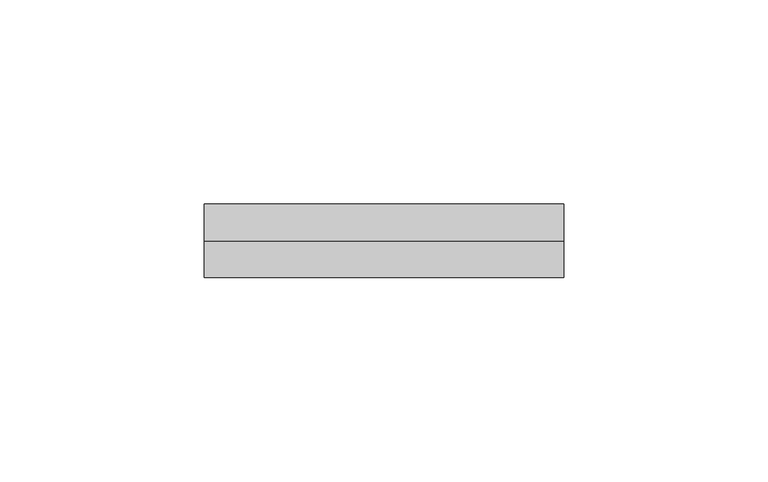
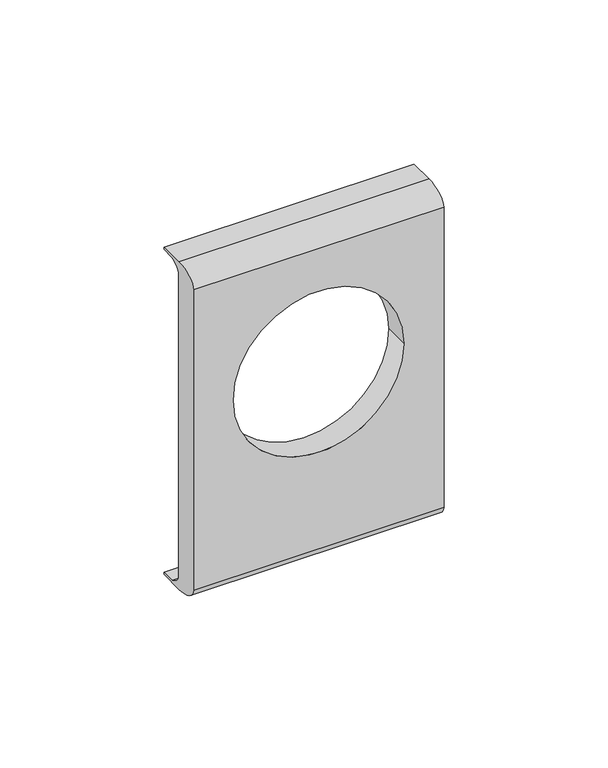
"""IFC4 building model written with IfcOpenShell, lengths in millimetres: proxy geometry, КНС_РамкаСуппортPDA-N_ILC_DKC : Рамка суппорт PDA-N_DKC."""

from ifc_helpers import new_model, si_unit, point, frame, origin, place, context, project, spatial, polyline, circle_curve, ellipse_curve, trimmed, source, transform, mapped, element, save
from ifc_brep_helpers import plane_surface, revolved_surface, extruded_surface, advanced_brep


def electrical_fixtures_d3c7e23e(model_context):
    return source(origin(), model_context, "Body", "AdvancedBrep", [
        advanced_brep(
        [(44.0, 9.0, 50.85), (44.0, 0.0, 50.85), (44.0, -9.0, 45.85), (44.0, -9.0, -65.85), (44.0, 0.0, -70.85), (44.0, 9.0, -70.85), (44.0, 9.0, -70.0), (44.0, 3.9801295, -70.0), (44.0, 0.0, -65.85), (44.0, 0.0, 45.85), (44.0, 3.9801295, 50.0), (44.0, 9.0, 50.0), (-44.0, 9.0, 50.85), (-44.0, 9.0, 50.0), (-44.0, 3.9801295, 50.0), (-44.0, 0.0, 45.85), (-44.0, 0.0, -65.85), (-44.0, 3.9801295, -70.0), (-44.0, 9.0, -70.0), (-44.0, 9.0, -70.85), (-44.0, 0.0, -70.85), (-44.0, -9.0, -65.85), (-44.0, -9.0, 45.85), (-44.0, 0.0, 50.85), (30.0, -9.0, 0.0), (-30.0, -9.0, 0.0), (-30.0, 0.0, 0.0), (30.0, 0.0, 0.0)],
        [
            (0, 1),
            (1, 2, ellipse_curve(frame((44.0, 0.0, 45.85), z_axis=(1.0, 0.0, 0.0), x_axis=(0.0, 1.0, 0.0)), 9.0, 5.0)),
            (2, 3),
            (3, 4, ellipse_curve(frame((44.0, 0.0, -65.85), z_axis=(1.0, 0.0, 0.0), x_axis=(0.0, 1.0, 0.0)), 9.0, 5.0)),
            (4, 5),
            (5, 6),
            (6, 7),
            (7, 8, ellipse_curve(frame((44.0, 9.0, -65.85), z_axis=(-1.0, 0.0, 0.0), x_axis=(0.0, 1.0, 0.0)), 9.0, 5.0)),
            (8, 9),
            (9, 10, ellipse_curve(frame((44.0, 9.0, 45.85), z_axis=(-1.0, 0.0, 0.0), x_axis=(0.0, 1.0, 0.0)), 9.0, 5.0)),
            (10, 11),
            (11, 0),
            (12, 13),
            (13, 14),
            (14, 15, ellipse_curve(frame((-44.0, 9.0, 45.85), z_axis=(1.0, 0.0, 0.0), x_axis=(0.0, 1.0, 0.0)), 9.0, 5.0)),
            (15, 16),
            (16, 17, ellipse_curve(frame((-44.0, 9.0, -65.85), z_axis=(1.0, 0.0, 0.0), x_axis=(0.0, 1.0, 0.0)), 9.0, 5.0)),
            (17, 18),
            (18, 19),
            (19, 20),
            (20, 21, ellipse_curve(frame((-44.0, 0.0, -65.85), z_axis=(-1.0, 0.0, 0.0), x_axis=(0.0, 1.0, 0.0)), 9.0, 5.0)),
            (21, 22),
            (22, 23, ellipse_curve(frame((-44.0, 0.0, 45.85), z_axis=(-1.0, 0.0, 0.0), x_axis=(0.0, 1.0, 0.0)), 9.0, 5.0)),
            (23, 12),
            (0, 12),
            (23, 1),
            (2, 22),
            (21, 3),
            (24, 25, circle_curve(frame((0.0, -9.0, 0.0), z_axis=(0.0, 1.0, 0.0), x_axis=(1.0, 0.0, 0.0)), 30.0)),
            (25, 24, circle_curve(frame((0.0, -9.0, 0.0), z_axis=(0.0, 1.0, 0.0), x_axis=(1.0, 0.0, 0.0)), 30.0)),
            (4, 20),
            (19, 5),
            (18, 6),
            (17, 7),
            (8, 16),
            (15, 9),
            (26, 27, circle_curve(frame((0.0, 0.0, 0.0), z_axis=(0.0, -1.0, 0.0), x_axis=(1.0, 0.0, 0.0)), 30.0)),
            (27, 26, circle_curve(frame((0.0, 0.0, 0.0), z_axis=(0.0, -1.0, 0.0), x_axis=(1.0, 0.0, 0.0)), 30.0)),
            (10, 14),
            (13, 11),
            (24, 27),
            (26, 25),
        ],
        [
            plane_surface(frame((44.0, 9.0, 50.85), z_axis=(1.0, 0.0, 0.0), x_axis=(0.0, -1.0, 0.0))),
            plane_surface(frame((-44.0, 9.0, 50.85), z_axis=(-1.0, 0.0, 0.0), x_axis=(0.0, 1.0, 0.0))),
            plane_surface(frame((44.0, 9.0, 50.85), z_axis=(0.0, 0.0, 1.0), x_axis=(-1.0, 0.0, 0.0))),
            plane_surface(frame((44.0, -9.0, 45.85), z_axis=(0.0, -1.0, 0.0), x_axis=(-1.0, 0.0, 0.0))),
            plane_surface(frame((44.0, 0.0, -70.85), z_axis=(0.0, 0.0, -1.0), x_axis=(-1.0, 0.0, 0.0))),
            plane_surface(frame((44.0, 9.0, -70.85), z_axis=(0.0, 1.0, 0.0), x_axis=(-1.0, 0.0, 0.0))),
            plane_surface(frame((44.0, 9.0, -70.0), z_axis=(0.0, 0.0, 1.0), x_axis=(-1.0, 0.0, 0.0))),
            plane_surface(frame((44.0, 0.0, -65.85), z_axis=(0.0, 1.0, 0.0), x_axis=(-1.0, 0.0, 0.0))),
            plane_surface(frame((44.0, 3.9801295, 50.0), z_axis=(0.0, 0.0, -1.0), x_axis=(-1.0, 0.0, 0.0))),
            plane_surface(frame((44.0, 9.0, 50.0), z_axis=(0.0, 1.0, 0.0), x_axis=(-1.0, 0.0, 0.0))),
            extruded_surface(trimmed(ellipse_curve(frame((-132.0, 0.0, 45.85), z_axis=(1.0, 0.0, 0.0), x_axis=(0.0, 1.0, 0.0)), 9.0, 5.0), [point((-132.0, 0.0, 50.85))], [point((-132.0, -9.0, 45.85))], True, "CARTESIAN"), (88.0, 0.0, 0.0), 88.0),
            extruded_surface(trimmed(ellipse_curve(frame((-132.0, 0.0, -65.85), z_axis=(1.0, 0.0, 0.0), x_axis=(0.0, 1.0, 0.0)), 9.0, 5.0), [point((-132.0, -9.0, -65.85))], [point((-132.0, 0.0, -70.85))], True, "CARTESIAN"), (88.0, 0.0, 0.0), 88.0),
            extruded_surface(trimmed(ellipse_curve(frame((-132.0, 9.0, -65.85), z_axis=(-1.0, 0.0, 0.0), x_axis=(0.0, 1.0, 0.0)), 9.0, 5.0), [point((-132.0, 3.9801295, -70.0))], [point((-132.0, 0.0, -65.85))], True, "CARTESIAN"), (88.0, 0.0, 0.0), 88.0),
            extruded_surface(trimmed(ellipse_curve(frame((-132.0, 9.0, 45.85), z_axis=(-1.0, 0.0, 0.0), x_axis=(0.0, 1.0, 0.0)), 9.0, 5.0), [point((-132.0, 0.0, 45.85))], [point((-132.0, 3.9801295, 50.0))], True, "CARTESIAN"), (88.0, 0.0, 0.0), 88.0),
            revolved_surface(polyline([(30.0, -9.0, 0.0), (30.0, 0.0, 0.0)]), (0.0, 0.0, 0.0), (0.0, -1.0, 0.0)),
        ],
        [
            (0, [[1, 2, 3, 4, 5, 6, 7, 8, 9, 10, 11, 12]]),
            (1, [[13, 14, 15, 16, 17, 18, 19, 20, 21, 22, 23, 24]]),
            (2, [[-1, 25, -24, 26]]),
            (3, [[-3, 27, -22, 28], [29, 30]]),
            (4, [[-5, 31, -20, 32]]),
            (5, [[-6, -32, -19, 33]]),
            (6, [[-7, -33, -18, 34]]),
            (7, [[-9, 35, -16, 36], [37, 38]]),
            (8, [[-11, 39, -14, 40]]),
            (9, [[-12, -40, -13, -25]]),
            (10, [[-2, -26, -23, -27]]),
            (11, [[-4, -28, -21, -31]]),
            (12, [[-8, -34, -17, -35]]),
            (13, [[-10, -36, -15, -39]]),
            (14, [[41, -37, 42, -29]]),
            (14, [[-41, -30, -42, -38]]),
        ],
    ),
    ])


if __name__ == "__main__":
    model = new_model("IFC4")
    model_context = context("Model", 3, world=origin())
    ifc_project = project(units=[si_unit("LENGTHUNIT", "METRE", prefix="MILLI")], contexts=[model_context])
    site = spatial("IfcSite", under=ifc_project)
    building = spatial("IfcBuilding", under=site)
    placement = place(None, origin())
    electrical_fixtures_shape = electrical_fixtures_d3c7e23e(model_context)
    element("IfcBuildingElementProxy", 1, Name="КНС_РамкаСуппортPDA-N_ILC_DKC : Рамка суппорт PDA-N_DKC", ObjectType="КНС_РамкаСуппортPDA-N_ILC_DKC : Рамка суппорт PDA-N_DKC", at=placement, inside=building, context=model_context, shape_type="MappedRepresentation", body=[
        mapped(electrical_fixtures_shape, transform((0.0, 0.0, 0.0), x_axis=(1.0, 0.0, 0.0), y_axis=(0.0, 1.0, 0.0), z_axis=(0.0, 0.0, 1.0))),
    ])
    save(model, "model.ifc")
